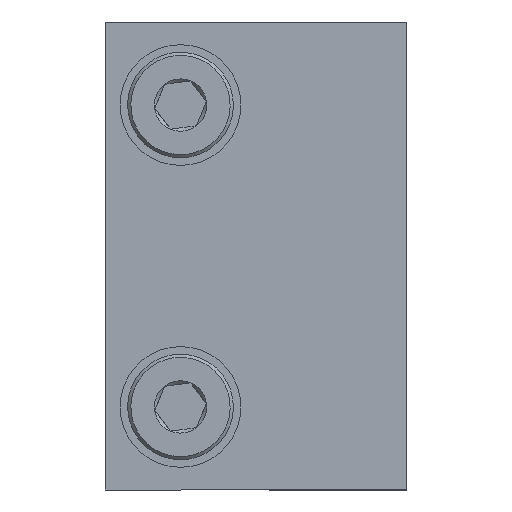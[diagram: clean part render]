
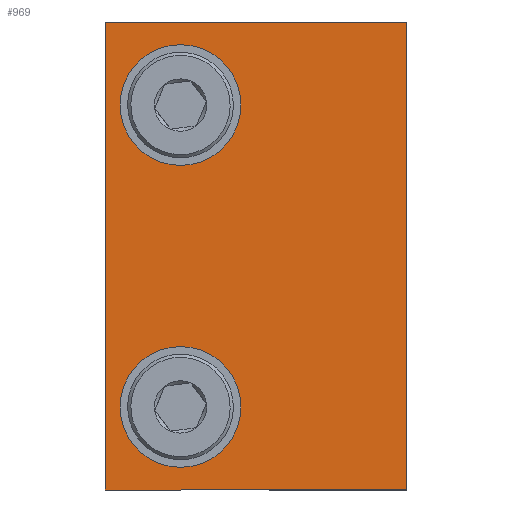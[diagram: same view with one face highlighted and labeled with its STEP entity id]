
A CAD part, left-side view. The second image highlights one B-rep face of the part: STEP entity #969.
In plain terms, the highlighted planar face has unit normal (-1, 0, 0).
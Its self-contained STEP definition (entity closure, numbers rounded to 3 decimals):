
#1 = LINE ( 'NONE', #2098, #7972 ) ;
#138 = VERTEX_POINT ( 'NONE', #2060 ) ;
#282 = ORIENTED_EDGE ( 'NONE', *, *, #3117, .F. ) ;
#320 = CARTESIAN_POINT ( 'NONE',  ( -22.85, 24.727, 58.206 ) ) ;
#657 = CIRCLE ( 'NONE', #5345, 4. ) ;
#762 = VERTEX_POINT ( 'NONE', #320 ) ;
#969 = ADVANCED_FACE ( 'NONE', ( #3498, #5423, #7955 ), #9326, .T. ) ;
#1087 = DIRECTION ( 'NONE',  ( -1., 0., 0. ) ) ;
#1233 = DIRECTION ( 'NONE',  ( -1., 0., 0. ) ) ;
#1403 = CARTESIAN_POINT ( 'NONE',  ( -22.85, 29.727, 59.706 ) ) ;
#1661 = CARTESIAN_POINT ( 'NONE',  ( -22.85, 22.227, 44.206 ) ) ;
#1716 = ORIENTED_EDGE ( 'NONE', *, *, #3361, .T. ) ;
#1855 = CIRCLE ( 'NONE', #3352, 4. ) ;
#2008 = DIRECTION ( 'NONE',  ( 0., 0., 1. ) ) ;
#2060 = CARTESIAN_POINT ( 'NONE',  ( -22.85, 9.727, 59.706 ) ) ;
#2098 = CARTESIAN_POINT ( 'NONE',  ( -22.85, 29.727, 59.706 ) ) ;
#2578 = ORIENTED_EDGE ( 'NONE', *, *, #5554, .T. ) ;
#3117 = EDGE_CURVE ( 'NONE', #762, #762, #1855, .T. ) ;
#3325 = VERTEX_POINT ( 'NONE', #5126 ) ;
#3352 = AXIS2_PLACEMENT_3D ( 'NONE', #3497, #1087, #8074 ) ;
#3361 = EDGE_CURVE ( 'NONE', #7190, #3325, #7815, .T. ) ;
#3497 = CARTESIAN_POINT ( 'NONE',  ( -22.85, 24.727, 54.206 ) ) ;
#3498 = FACE_BOUND ( 'NONE', #9592, .T. ) ;
#3668 = VERTEX_POINT ( 'NONE', #9391 ) ;
#3680 = CARTESIAN_POINT ( 'NONE',  ( -22.85, 9.727, 28.706 ) ) ;
#3682 = LINE ( 'NONE', #9926, #4991 ) ;
#3858 = DIRECTION ( 'NONE',  ( -1., 0., 0. ) ) ;
#4444 = EDGE_CURVE ( 'NONE', #3668, #3668, #657, .T. ) ;
#4627 = CARTESIAN_POINT ( 'NONE',  ( -22.85, 29.727, 28.706 ) ) ;
#4639 = DIRECTION ( 'NONE',  ( 0., -1., 0. ) ) ;
#4657 = EDGE_CURVE ( 'NONE', #138, #4896, #3682, .T. ) ;
#4896 = VERTEX_POINT ( 'NONE', #3680 ) ;
#4991 = VECTOR ( 'NONE', #5315, 1000. ) ;
#5067 = CARTESIAN_POINT ( 'NONE',  ( -22.85, 24.727, 34.206 ) ) ;
#5126 = CARTESIAN_POINT ( 'NONE',  ( -22.85, 29.727, 28.706 ) ) ;
#5222 = VECTOR ( 'NONE', #4639, 1000. ) ;
#5315 = DIRECTION ( 'NONE',  ( 0., 0., -1. ) ) ;
#5345 = AXIS2_PLACEMENT_3D ( 'NONE', #5067, #1233, #2008 ) ;
#5404 = DIRECTION ( 'NONE',  ( 0., 0., -1. ) ) ;
#5423 = FACE_BOUND ( 'NONE', #8155, .T. ) ;
#5554 = EDGE_CURVE ( 'NONE', #3325, #4896, #7260, .T. ) ;
#6004 = VECTOR ( 'NONE', #5404, 1000. ) ;
#6180 = ORIENTED_EDGE ( 'NONE', *, *, #4444, .F. ) ;
#6312 = EDGE_LOOP ( 'NONE', ( #9730, #1716, #2578, #6646 ) ) ;
#6646 = ORIENTED_EDGE ( 'NONE', *, *, #4657, .F. ) ;
#7190 = VERTEX_POINT ( 'NONE', #1403 ) ;
#7260 = LINE ( 'NONE', #9278, #5222 ) ;
#7488 = DIRECTION ( 'NONE',  ( 0., 1., 0. ) ) ;
#7815 = LINE ( 'NONE', #4627, #6004 ) ;
#7835 = DIRECTION ( 'NONE',  ( 0., 0., 1. ) ) ;
#7955 = FACE_OUTER_BOUND ( 'NONE', #6312, .T. ) ;
#7972 = VECTOR ( 'NONE', #7488, 1000. ) ;
#8074 = DIRECTION ( 'NONE',  ( 0., 0., 1. ) ) ;
#8155 = EDGE_LOOP ( 'NONE', ( #282 ) ) ;
#8279 = EDGE_CURVE ( 'NONE', #138, #7190, #1, .T. ) ;
#9278 = CARTESIAN_POINT ( 'NONE',  ( -22.85, 29.727, 28.706 ) ) ;
#9326 = PLANE ( 'NONE',  #10039 ) ;
#9391 = CARTESIAN_POINT ( 'NONE',  ( -22.85, 24.727, 38.206 ) ) ;
#9592 = EDGE_LOOP ( 'NONE', ( #6180 ) ) ;
#9730 = ORIENTED_EDGE ( 'NONE', *, *, #8279, .T. ) ;
#9926 = CARTESIAN_POINT ( 'NONE',  ( -22.85, 9.727, 59.706 ) ) ;
#10039 = AXIS2_PLACEMENT_3D ( 'NONE', #1661, #3858, #7835 ) ;
